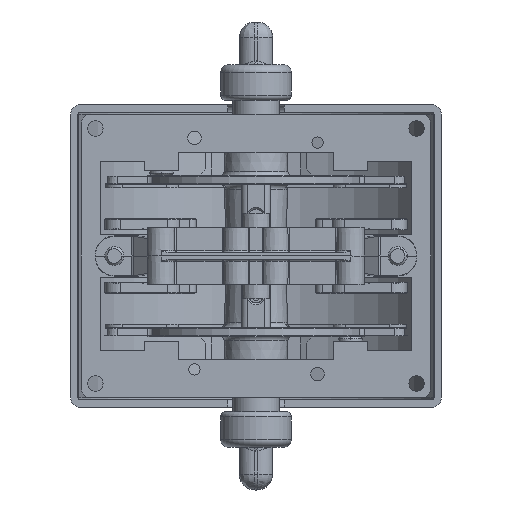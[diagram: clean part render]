
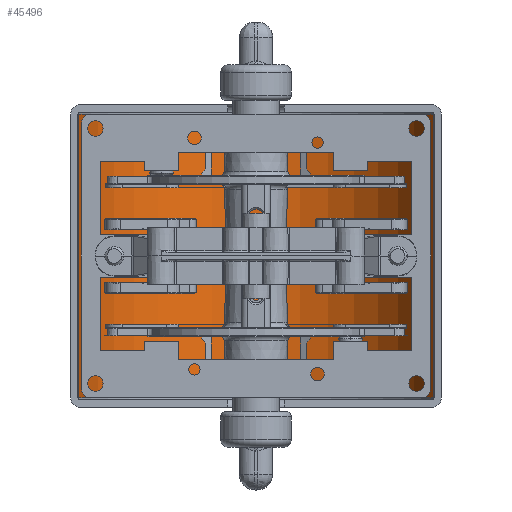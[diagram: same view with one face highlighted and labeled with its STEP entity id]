
A CAD part, front view. The second image highlights one B-rep face of the part: STEP entity #45496.
In plain terms, the highlighted cylindrical face has radius 60.325 mm (diameter 120.65 mm), a partial arc.
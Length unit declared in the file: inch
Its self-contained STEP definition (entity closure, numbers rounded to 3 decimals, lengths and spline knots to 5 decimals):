
#1825 = DIRECTION ( 'NONE',  ( 0., 0., -1. ) ) ;
#4745 = CYLINDRICAL_SURFACE ( 'NONE', #28523, 2.375 ) ;
#5586 = CIRCLE ( 'NONE', #9735, 2.375 ) ;
#6771 = AXIS2_PLACEMENT_3D ( 'NONE', #33097, #12859, #18084 ) ;
#7257 = DIRECTION ( 'NONE',  ( 0., 0., -1. ) ) ;
#8089 = EDGE_CURVE ( 'NONE', #41758, #49295, #41195, .T. ) ;
#8996 = CARTESIAN_POINT ( 'NONE',  ( 2.34311, 0.70042, 1.875 ) ) ;
#9024 = ORIENTED_EDGE ( 'NONE', *, *, #33266, .F. ) ;
#9579 = DIRECTION ( 'NONE',  ( 0., 0., -1. ) ) ;
#9735 = AXIS2_PLACEMENT_3D ( 'NONE', #37920, #1825, #17390 ) ;
#11678 = VECTOR ( 'NONE', #9579, 39.37008 ) ;
#12859 = DIRECTION ( 'NONE',  ( 0., 0., 1. ) ) ;
#13192 = CARTESIAN_POINT ( 'NONE',  ( 0., 0.3125, 2. ) ) ;
#16581 = ORIENTED_EDGE ( 'NONE', *, *, #36696, .T. ) ;
#16877 = DIRECTION ( 'NONE',  ( -1., 0., 0. ) ) ;
#17253 = ORIENTED_EDGE ( 'NONE', *, *, #45003, .F. ) ;
#17390 = DIRECTION ( 'NONE',  ( -1., 0., 0. ) ) ;
#17511 = LINE ( 'NONE', #21934, #11678 ) ;
#18084 = DIRECTION ( 'NONE',  ( -1., 0., 0. ) ) ;
#18242 = VERTEX_POINT ( 'NONE', #25249 ) ;
#19367 = LINE ( 'NONE', #39870, #48026 ) ;
#19931 = ORIENTED_EDGE ( 'NONE', *, *, #8089, .F. ) ;
#21053 = EDGE_LOOP ( 'NONE', ( #17253, #9024, #16581, #19931 ) ) ;
#21934 = CARTESIAN_POINT ( 'NONE',  ( 2.34311, 0.70042, 2. ) ) ;
#22250 = CARTESIAN_POINT ( 'NONE',  ( 2.34311, 0.70042, -1.875 ) ) ;
#25249 = CARTESIAN_POINT ( 'NONE',  ( -2.34311, 0.70042, 1.875 ) ) ;
#27060 = VERTEX_POINT ( 'NONE', #8996 ) ;
#28523 = AXIS2_PLACEMENT_3D ( 'NONE', #13192, #45050, #16877 ) ;
#33097 = CARTESIAN_POINT ( 'NONE',  ( 0., 0.3125, -1.875 ) ) ;
#33266 = EDGE_CURVE ( 'NONE', #18242, #27060, #5586, .T. ) ;
#36696 = EDGE_CURVE ( 'NONE', #18242, #49295, #19367, .T. ) ;
#37920 = CARTESIAN_POINT ( 'NONE',  ( 0., 0.3125, 1.875 ) ) ;
#39870 = CARTESIAN_POINT ( 'NONE',  ( -2.34311, 0.70042, 2. ) ) ;
#41049 = FACE_OUTER_BOUND ( 'NONE', #21053, .T. ) ;
#41195 = CIRCLE ( 'NONE', #6771, 2.375 ) ;
#41758 = VERTEX_POINT ( 'NONE', #22250 ) ;
#43894 = CARTESIAN_POINT ( 'NONE',  ( -2.34311, 0.70042, -1.875 ) ) ;
#45003 = EDGE_CURVE ( 'NONE', #27060, #41758, #17511, .T. ) ;
#45050 = DIRECTION ( 'NONE',  ( 0., 0., -1. ) ) ;
#45496 = ADVANCED_FACE ( 'NONE', ( #41049 ), #4745, .F. ) ;
#48026 = VECTOR ( 'NONE', #7257, 39.37008 ) ;
#49295 = VERTEX_POINT ( 'NONE', #43894 ) ;
